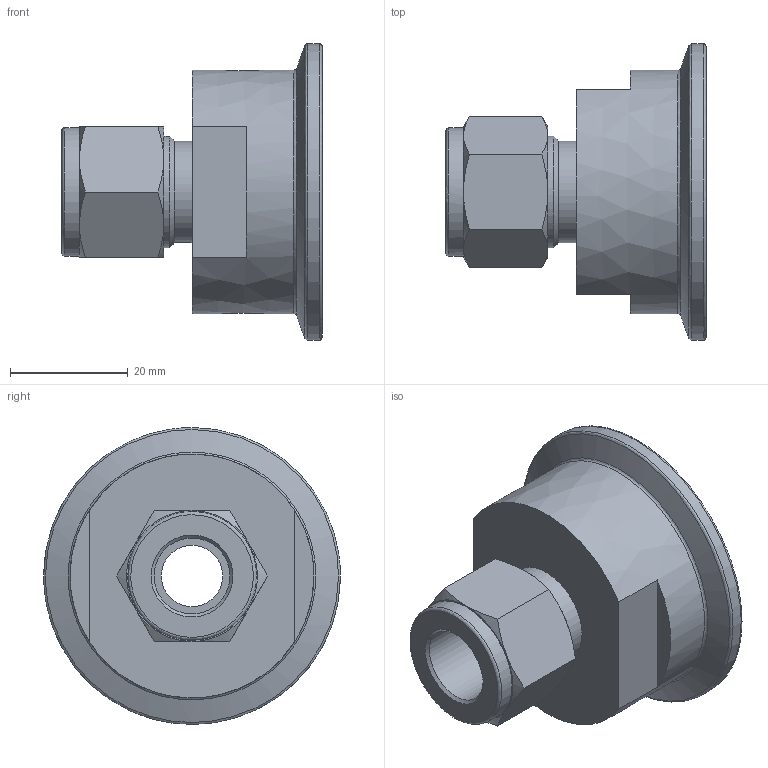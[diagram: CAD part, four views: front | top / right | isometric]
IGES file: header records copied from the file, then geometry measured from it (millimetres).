
Global section: file name: SSFA-8-16SA; native system: Autodesk Inventor 2016; preprocessor: unknown; author: DESIGNPC2; date: 20160312.145445; units: millimetre
Bounding box: 44.2 x 50.4 x 50.4 mm (x, y, z)
Volume: 32631 mm3; surface area: 10227.6 mm2
Topology: 1 solids, 1 shells, 51 faces, 141 edges, 98 vertices
Faces by surface type: bspline 51
